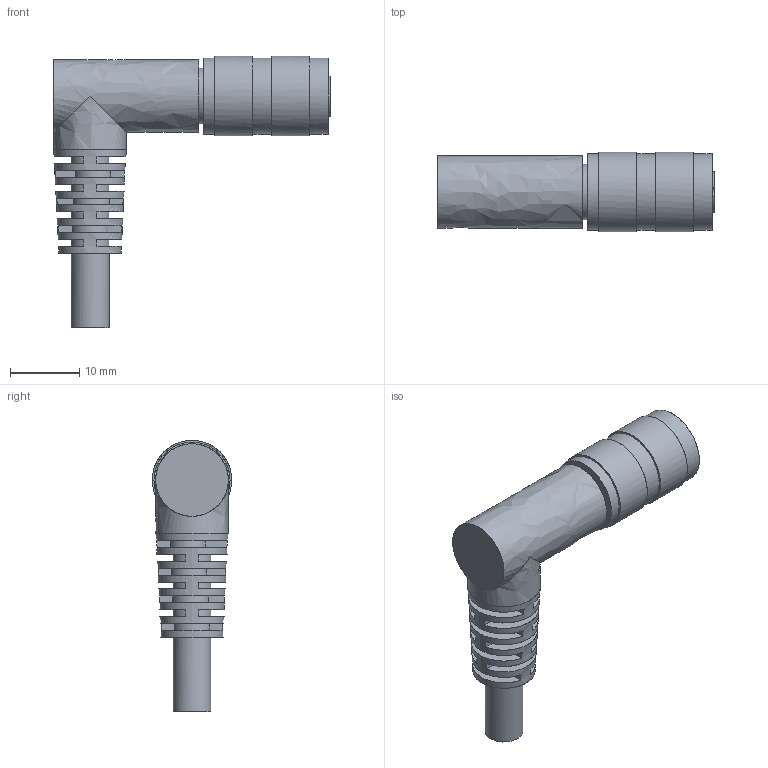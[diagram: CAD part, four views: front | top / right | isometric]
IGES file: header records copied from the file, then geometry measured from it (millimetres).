
Start section: C
Global section: file name: ESW 61CPxxxxG.igs; native system:  By UGS Corp.; preprocessor: XPlus GENERIC/IGES 3.0; author: Author; organization: Title; date: 20140314.093211; units: millimetre
Bounding box: 40 x 11.5 x 39.24 mm (x, y, z)
Surface area: 3452.2 mm2 (no closed solid volume)
Topology: 0 solids, 0 shells, 112 faces, 574 edges, 574 vertices
Faces by surface type: bspline 112
